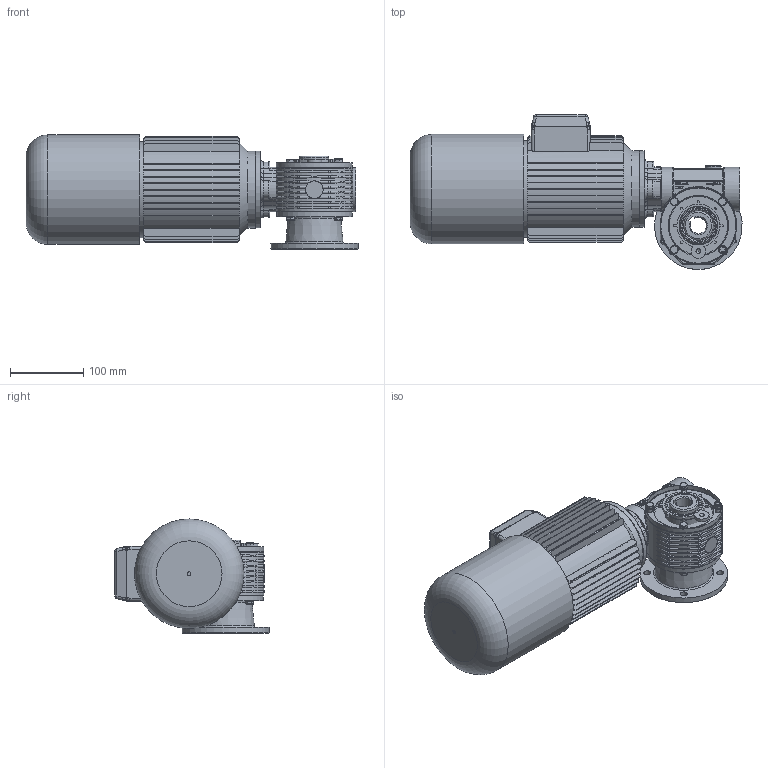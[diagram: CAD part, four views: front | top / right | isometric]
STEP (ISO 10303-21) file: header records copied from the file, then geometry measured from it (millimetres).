
FILE_DESCRIPTION((''),'2;1');
FILE_NAME('Y:\Archivi Inventor\Prog_01\GRAND_10\Figurini\mrv10 VECCHIO\pam71 b14 - B\MRV10 PAM71B14 F2 B.stp','2014-01-15T09:47:44',('tech3'),(''),'Autodesk Inventor 2013','Autodesk Inventor 2013','');
FILE_SCHEMA(('AUTOMOTIVE_DESIGN { 1 0 10303 214 1 1 1 1 }'));
Length unit declared in the file: millimetre
Products named in the file (17): mrv10; V10_PRIMARIO; carcassa mrv10 fig; corona MRV10-f22 fig; RCA_40x7; 40_52_8; Tappo 3_8 GAS_esagn_incsst; Guarnizione 3_8 GAS; DIN EN ISO 4762 M6 x 20; 0101029; coperchio laterale mrv10 fig; DIN EN 24017 M6 x 16; flangia riduttore Mrv10 fig; 0101028; 0101006; DIN EN ISO 4762 M6 x 16; motori B14 brake 71
Assembly tree (28 placements, depth 3):
  mrv10
    V10_PRIMARIO
      carcassa mrv10 fig
      corona MRV10-f22 fig
      RCA_40x7
      40_52_8  x2
      Tappo 3_8 GAS_esagn_incsst
      Guarnizione 3_8 GAS
      DIN EN ISO 4762 M6 x 20
      0101029  x2
      coperchio laterale mrv10 fig
      DIN EN 24017 M6 x 16  x8
      flangia riduttore Mrv10 fig
      0101028
    0101006
    DIN EN ISO 4762 M6 x 16  x4
    motori B14 brake 71
Bounding box: 454.72 x 211.77 x 156.35 mm (x, y, z)
Volume: 3600356.3 mm3; surface area: 582048.7 mm2
Topology: 28 solids, 32 shells, 1891 faces, 4768 edges, 3033 vertices
Faces by surface type: plane 1022, cylinder 401, bspline 210, cone 128, torus 114, sphere 16
Full cylindrical faces by diameter (mm): 2 x2, 4.917 x16, 5 x1, 6 x17, 6.5 x21, 7 x4, 8 x1, 8.88 x8, 9.25 x4, 10 x5, 11 x4, 14 x1, 14.95 x1, 16.3 x1, 16.5 x1, 22 x2, 24 x1, 35 x1, 35.2 x1, 39.4 x2, 40 x11, 42.5 x1, 42.881 x2, 47.232 x2, 52 x4, 60 x3, 70 x2, 80 x2, 81 x1, 82 x6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
Entity records: 55385 total; most frequent: CARTESIAN_POINT 15809, ORIENTED_EDGE 8162, DIRECTION 7542, EDGE_CURVE 4081, VERTEX_POINT 2715, AXIS2_PLACEMENT_3D 2637, VECTOR 2268, LINE 2268
